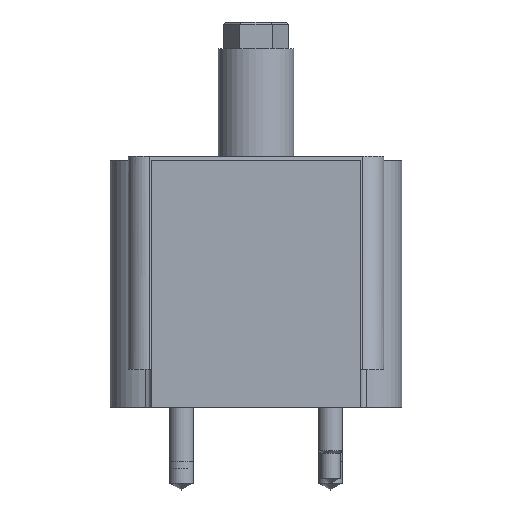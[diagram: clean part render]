
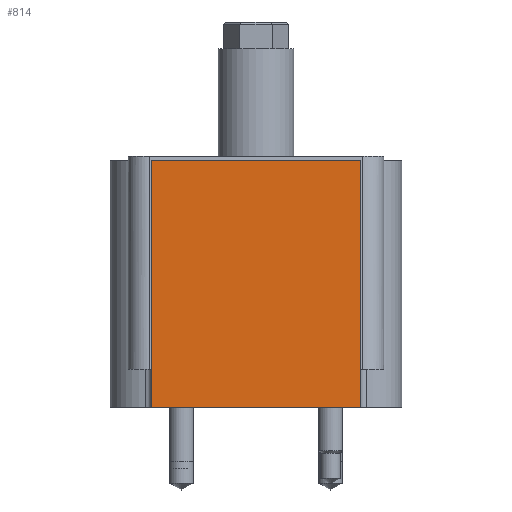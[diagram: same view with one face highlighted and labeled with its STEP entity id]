
A CAD part, left-side view. The second image highlights one B-rep face of the part: STEP entity #814.
In plain terms, the highlighted planar face has unit normal (-1, 0, 0).
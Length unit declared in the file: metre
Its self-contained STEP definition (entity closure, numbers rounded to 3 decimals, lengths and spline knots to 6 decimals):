
#814=ADVANCED_FACE('',(#1694),#1695,.T.);
#1694=FACE_OUTER_BOUND('',#11133,.T.);
#1695=PLANE('',#11134);
#11133=EDGE_LOOP('',(#12742,#12743,#12744,#12745));
#11134=AXIS2_PLACEMENT_3D('',#12746,#12747,#12748);
#12742=ORIENTED_EDGE('',*,*,#13601,.F.);
#12743=ORIENTED_EDGE('',*,*,#13565,.T.);
#12744=ORIENTED_EDGE('',*,*,#13578,.F.);
#12745=ORIENTED_EDGE('',*,*,#13587,.T.);
#12746=CARTESIAN_POINT('',(-0.084201,0.0,0.0));
#12747=DIRECTION('',(-1.0,0.0,0.0));
#12748=DIRECTION('',(0.0,0.0,1.0));
#13565=EDGE_CURVE('',#14462,#14460,#14463,.T.);
#13578=EDGE_CURVE('',#14482,#14460,#14484,.F.);
#13587=EDGE_CURVE('',#14482,#14498,#14500,.T.);
#13601=EDGE_CURVE('',#14462,#14498,#14514,.F.);
#14460=VERTEX_POINT('',#17660);
#14462=VERTEX_POINT('',#17663);
#14463=LINE('',#17664,#17665);
#14482=VERTEX_POINT('',#17686);
#14484=LINE('',#17689,#17690);
#14498=VERTEX_POINT('',#17707);
#14500=LINE('',#17710,#17711);
#14514=LINE('',#17731,#17732);
#17660=CARTESIAN_POINT('',(-0.084201,-0.034988,0.0));
#17663=CARTESIAN_POINT('',(-0.084201,0.034988,0.0));
#17664=CARTESIAN_POINT('',(-0.084201,0.0,0.0));
#17665=VECTOR('',#18532,1.0);
#17686=CARTESIAN_POINT('',(-0.084201,-0.034988,0.08255));
#17689=CARTESIAN_POINT('',(-0.084201,-0.034988,0.0));
#17690=VECTOR('',#18554,1.0);
#17707=CARTESIAN_POINT('',(-0.084201,0.034988,0.08255));
#17710=CARTESIAN_POINT('',(-0.084201,0.0,0.08255));
#17711=VECTOR('',#18568,1.0);
#17731=CARTESIAN_POINT('',(-0.084201,0.034988,0.0));
#17732=VECTOR('',#18578,1.0);
#18532=DIRECTION('',(-0.0,-1.0,-0.0));
#18554=DIRECTION('',(0.0,0.0,1.0));
#18568=DIRECTION('',(0.0,1.0,0.0));
#18578=DIRECTION('',(0.0,0.0,-1.0));
